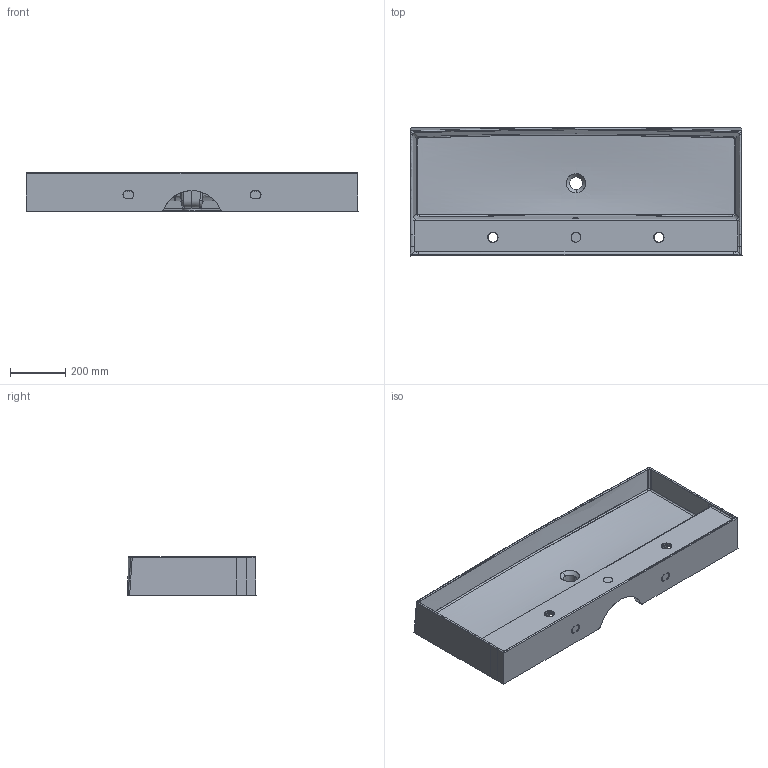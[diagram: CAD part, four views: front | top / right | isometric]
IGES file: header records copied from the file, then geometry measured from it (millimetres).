
Global section: file name: C:\Users\Massimiliano\Desktop\Teorema2.0\TEOREMA 2.0 lavabo 120x46 art. 5107 R-120 B\TEOREMA 2.0 lavabo 120x46 art.5107 R-120 B.igs; native system: Rhinoceros ( Mar 28 2013 ); preprocessor: Trout Lake IGES 012 Mar 28 2013; date: 171201.084524; units: millimetre
Bounding box: 1200 x 462.78 x 140.02 mm (x, y, z)
Surface area: 2005419 mm2 (no closed solid volume)
Topology: 0 solids, 0 shells, 309 faces, 2508 edges, 2502 vertices
Faces by surface type: bspline 309
